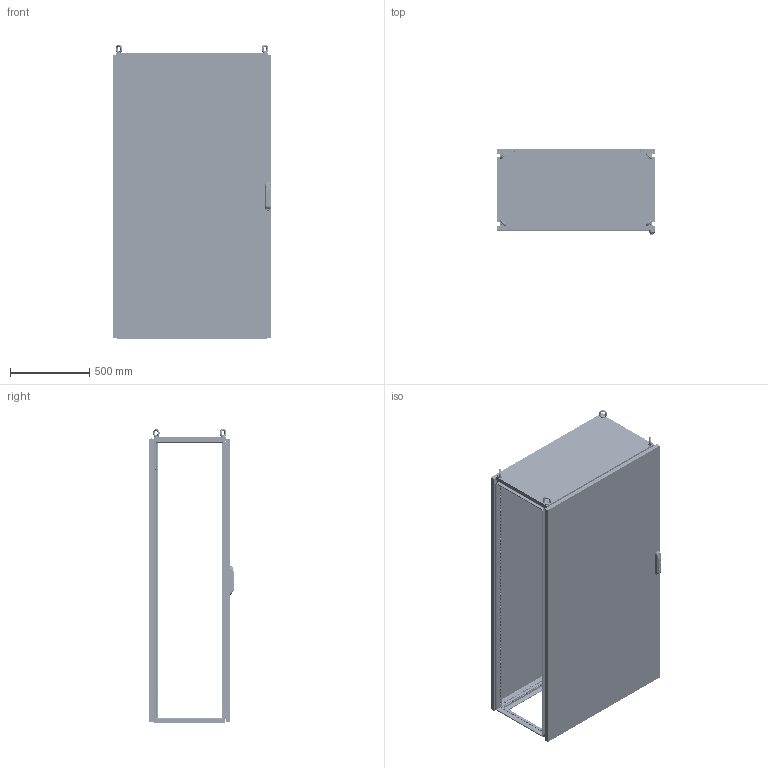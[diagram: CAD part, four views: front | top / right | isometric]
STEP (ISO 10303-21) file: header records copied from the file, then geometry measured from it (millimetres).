
FILE_DESCRIPTION(/* description */ ('Unknown'),/* implementation_level */ '2;1');
FILE_NAME(/* name */ 'MCA10018050',/* time_stamp */ '2025-03-07T09:24:58+01:00',/* author */ ('Unknown'),/* organization */ ('Unknown'),/* preprocessor_version */ 'ST-DEVELOPER v19.4',/* originating_system */ 'Solid Edge',/* authorisation */ 'Unknown');
FILE_SCHEMA (('CONFIG_CONTROL_DESIGN','MODEL_BASED_INTEGRATED_MANUFACTURING_SCHEMA'));
Products named in the file (46): MCA10018050; F0000001.24; AE00198.03; M000X000.75; M0000000.29; AE00500.10; M000X000.43; M0000000.53; M0000000.44; M0000000.06; AE00219.03; AE00715.01; M000X000.57; M0000000.61; F000X000.76; F000X000.77; F0000000.68; F0000000.07; AE00100.03_oa_0; AE00100.03_oa_1; AE00100.03_oa_2; AE00100.03_oa_3; M0000000.37; AE00701.03; F0000000.13; F000X001.81; F000X001.82; F000X001.83; F0000001.38; F000X001.84; F0000002.21; F0000002.18; AE01400.01; AE00413.05; AE00417.01; F0000000.12; AE00222.15; AE00316.01; AE00992.10_oa_4; AE00992.31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
Assembly tree (190 placements, depth 5):
  MCA10018050
    F0000001.24  x4
    AE00198.03  x16
    M000X000.75
      M0000000.29  x4
      AE00500.10  x48
      M000X000.43  x2
        M0000000.53
        M0000000.44
        M0000000.06
    AE00219.03  x8
    AE00715.01  x4
    M000X000.57
      M0000000.61
    F000X000.76
      F000X000.77
        F0000000.68
      F0000000.07  x2
      AE00100.03_oa_0
      AE00100.03_oa_1
      AE00100.03_oa_2
      AE00100.03_oa_3
    M0000000.37  x8
    AE00701.03  x4
    F0000000.13  x4
    F000X001.81
      F000X001.82
        F000X001.83
          F0000001.38
        F000X001.84
          F0000002.21  x2
          F0000002.18  x2
          AE01400.01  x4
        AE00413.05  x4
        AE00417.01  x2
      F0000000.12  x8
      AE00222.15  x8
      AE00316.01  x8
      AE00992.10_oa_4
      AE00992.31
      AE00315.01  x4
      AE00992.74   x2
      AE00992.18  x4
      AE00992.16
      AE00636.02  x8
    F0000000.08  x4
Bounding box: 1000.5 x 538.7 x 1856.95 mm (x, y, z)
Volume: 17418331.3 mm3; surface area: 15253553.5 mm2
Topology: 199 solids, 199 shells, 10322 faces, 29568 edges, 19795 vertices
Faces by surface type: plane 7397, cylinder 2319, cone 534, torus 42, sphere 16, bspline 14
Full cylindrical faces by diameter (mm): 2 x4, 3 x1, 3.242 x2, 4 x12, 4.134 x5, 4.25 x198, 4.5 x960, 4.917 x65, 4.918 x8, 5 x6, 6 x58, 6.1 x20, 6.2 x8, 6.5 x20, 7.5 x2, 8.3 x8, 8.5 x2, 9 x48, 10.106 x8, 10.5 x16, 11.8 x8, 12 x16, 13 x4, 14 x1, 16 x1, 17 x1, 23 x2, 30 x4
Entity records: 81906 total; most frequent: CARTESIAN_POINT 14331, ORIENTED_EDGE 12716, DIRECTION 12646, EDGE_CURVE 6358, LINE 5008, VECTOR 5008, VERTEX_POINT 4508, FACE_BOUND 4136
